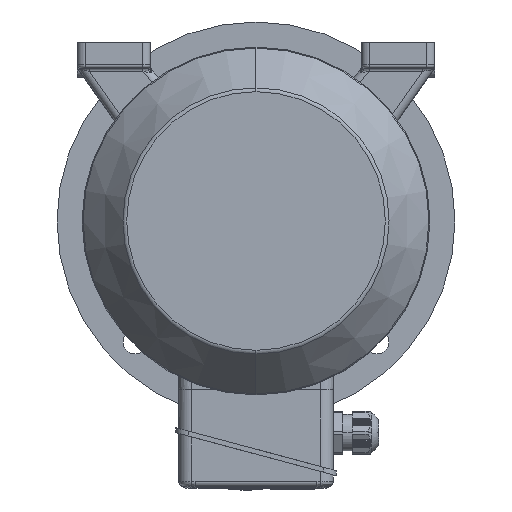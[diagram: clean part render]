
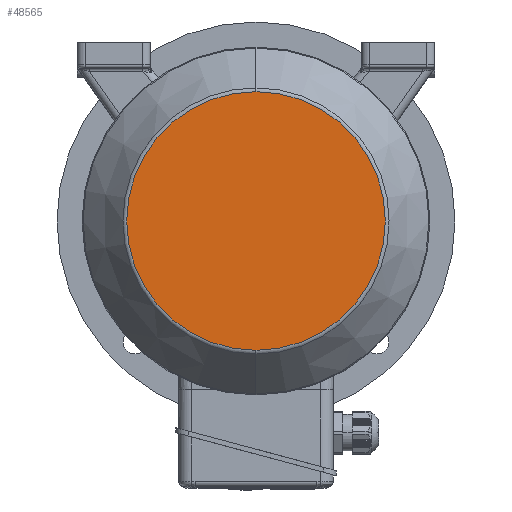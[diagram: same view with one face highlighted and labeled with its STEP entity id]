
A CAD part, left-side view. The second image highlights one B-rep face of the part: STEP entity #48565.
In plain terms, the highlighted planar face has unit normal (-1, 0, 0).
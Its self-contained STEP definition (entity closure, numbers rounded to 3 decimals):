
#1027 = AXIS2_PLACEMENT_3D ( 'NONE', #25772, #33464, #33800 ) ;
#4628 = CIRCLE ( 'NONE', #1027, 81.227 ) ;
#5745 = AXIS2_PLACEMENT_3D ( 'NONE', #43025, #27620, #15935 ) ;
#10671 = EDGE_CURVE ( 'NONE', #32765, #38703, #4628, .T. ) ;
#11820 = PLANE ( 'NONE',  #5745 ) ;
#15251 = DIRECTION ( 'NONE',  ( 1., 0., 0. ) ) ;
#15935 = DIRECTION ( 'NONE',  ( 0., 1., 0. ) ) ;
#18722 = DIRECTION ( 'NONE',  ( 0., 0., -1. ) ) ;
#25772 = CARTESIAN_POINT ( 'NONE',  ( -220., 0., 0. ) ) ;
#27620 = DIRECTION ( 'NONE',  ( -1., 0., 0. ) ) ;
#29469 = FACE_OUTER_BOUND ( 'NONE', #33710, .T. ) ;
#30388 = CARTESIAN_POINT ( 'NONE',  ( -220., 0., 0. ) ) ;
#32765 = VERTEX_POINT ( 'NONE', #47668 ) ;
#33464 = DIRECTION ( 'NONE',  ( 1., 0., 0. ) ) ;
#33710 = EDGE_LOOP ( 'NONE', ( #42412, #45067 ) ) ;
#33800 = DIRECTION ( 'NONE',  ( 0., 0., -1. ) ) ;
#38703 = VERTEX_POINT ( 'NONE', #43323 ) ;
#39902 = CIRCLE ( 'NONE', #41803, 81.227 ) ;
#41803 = AXIS2_PLACEMENT_3D ( 'NONE', #30388, #15251, #18722 ) ;
#42412 = ORIENTED_EDGE ( 'NONE', *, *, #48462, .F. ) ;
#43025 = CARTESIAN_POINT ( 'NONE',  ( -220., 0., -81.227 ) ) ;
#43323 = CARTESIAN_POINT ( 'NONE',  ( -220., 0., -81.227 ) ) ;
#45067 = ORIENTED_EDGE ( 'NONE', *, *, #10671, .F. ) ;
#47668 = CARTESIAN_POINT ( 'NONE',  ( -220., 0., 81.227 ) ) ;
#48462 = EDGE_CURVE ( 'NONE', #38703, #32765, #39902, .T. ) ;
#48565 = ADVANCED_FACE ( 'NONE', ( #29469 ), #11820, .T. ) ;
